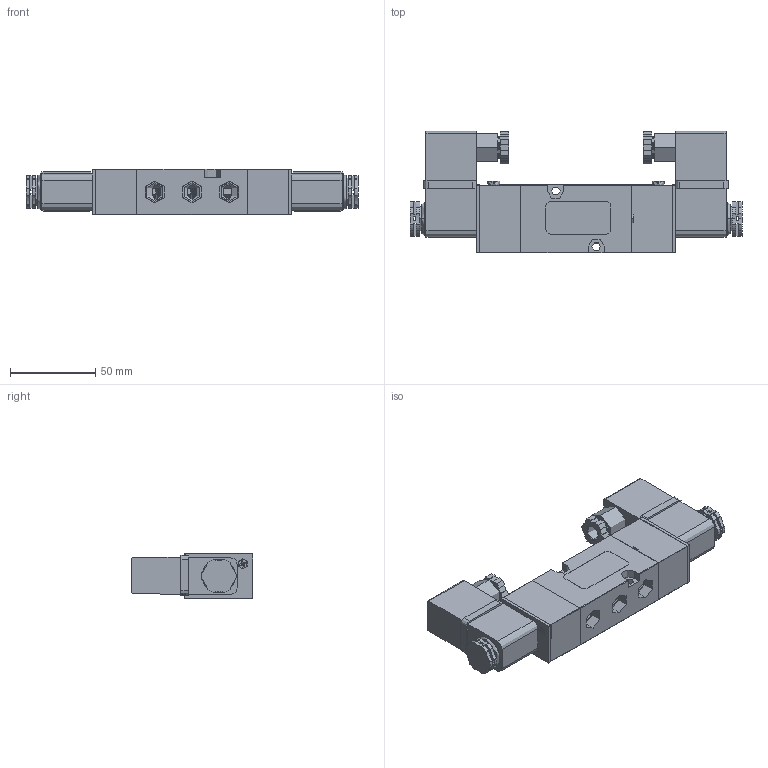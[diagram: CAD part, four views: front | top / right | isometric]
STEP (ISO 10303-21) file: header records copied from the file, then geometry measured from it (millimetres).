
FILE_DESCRIPTION (( 'STEP AP203' ), '1' );
FILE_NAME ('N4D-D.STEP', '2020-11-19T17:51:23', ( '' ), ( '' ), 'SwSTEP 2.0', 'SolidWorks 2017', '' );
FILE_SCHEMA (( 'CONFIG_CONTROL_DESIGN' ));
Length unit declared in the file: inch
Products named in the file (44): m3x30 HEAD PHILLIPS MACHINE SCREW_91420A134; N4S-spool-cap-plate; din-connector-n4s; N4SBODY; coil-std; m3x30 HEAD PHILLIPS MACHINE SCREW; coil-gasket; armature-tube; spool; coil-nut; N4S-spool-cap; spool-rings; m3x35 PHIL MACHINE SCREW_92000A134; m3x35 PHIL MACHINE SCREW; N4D-D; n4s-label; Assem3
Assembly tree (34 placements, depth 3):
  N4S-spool-cap-plate
  din-connector-n4s
  N4S-spool-cap-plate
  N4SBODY
  coil-gasket
Bounding box: 195.07 x 71.61 x 26.91 mm (x, y, z)
Volume: 166633 mm3; surface area: 88413.3 mm2
Topology: 30 solids, 30 shells, 2985 faces, 8302 edges, 5464 vertices
Faces by surface type: cylinder 1935, plane 755, cone 167, torus 106, bspline 18, sphere 4
Entity records: 71310 total; most frequent: CARTESIAN_POINT 32921, ORIENTED_EDGE 7982, DIRECTION 6470, EDGE_CURVE 3991, VERTEX_POINT 2620, AXIS2_PLACEMENT_3D 2395, LINE 1680, VECTOR 1680
